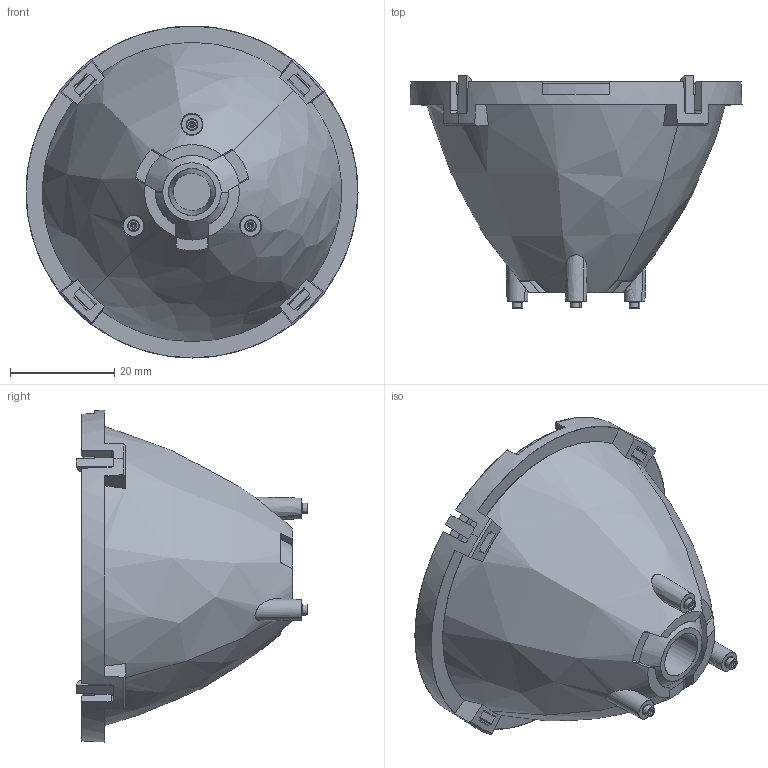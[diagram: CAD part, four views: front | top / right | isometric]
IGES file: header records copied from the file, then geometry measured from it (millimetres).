
Start section: SolidWorks IGES file using analytic representation for surfaces
Global section: file name: C:\P-Gold\Projects\Lenses\LuxPar_Lenses\05-LZC\2400-0081_Lens(Narrow)\Application\Release_LLSP-2T08-P3_RevA1_09-07-12\LLSP-2T08-P3_RevA1.IGS; native system: SolidWorks 2011; preprocessor: SolidWorks 2011; author: dadebiyi; date: 120907.141635; units: millimetre
Bounding box: 63.6 x 44.4 x 63.6 mm (x, y, z)
Surface area: 23237.3 mm2 (no closed solid volume)
Topology: 0 solids, 0 shells, 284 faces, 3601 edges, 3601 vertices
Faces by surface type: bspline 153, revolution 131
